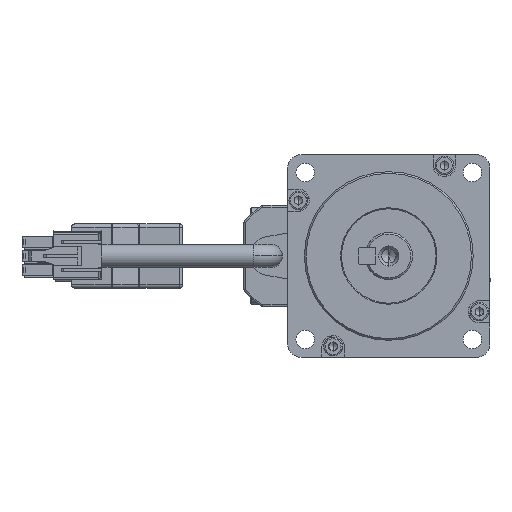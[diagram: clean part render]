
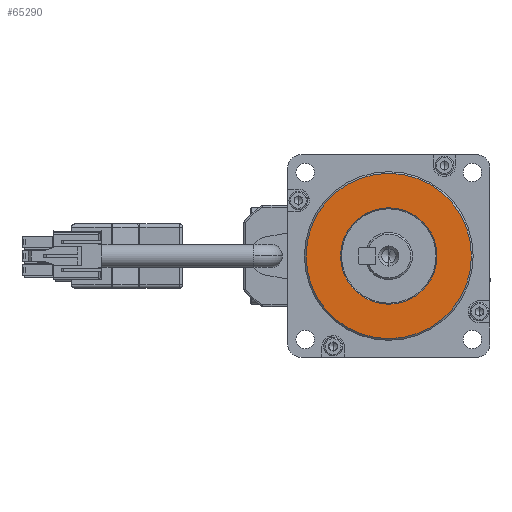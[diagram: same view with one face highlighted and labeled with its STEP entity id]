
A CAD part, left-side view. The second image highlights one B-rep face of the part: STEP entity #65290.
In plain terms, the highlighted planar face has unit normal (-1, 0, 0).
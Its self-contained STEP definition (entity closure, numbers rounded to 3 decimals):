
#4902 = DIRECTION ( 'NONE',  ( 0., 0., -1. ) ) ;
#7477 = CARTESIAN_POINT ( 'NONE',  ( -5.4, 0., 0. ) ) ;
#11857 = CARTESIAN_POINT ( 'NONE',  ( -5.4, 0., 0. ) ) ;
#15047 = DIRECTION ( 'NONE',  ( 1., 0., 0. ) ) ;
#17389 = EDGE_CURVE ( 'NONE', #90632, #43119, #60688, .T. ) ;
#20774 = ORIENTED_EDGE ( 'NONE', *, *, #17389, .T. ) ;
#22634 = DIRECTION ( 'NONE',  ( -1., 0., 0. ) ) ;
#23148 = AXIS2_PLACEMENT_3D ( 'NONE', #11857, #86842, #4902 ) ;
#24910 = EDGE_CURVE ( 'NONE', #91470, #52499, #79510, .T. ) ;
#27014 = CARTESIAN_POINT ( 'NONE',  ( -5.4, 0., 0. ) ) ;
#32018 = CARTESIAN_POINT ( 'NONE',  ( -5.4, 0., 24.5 ) ) ;
#32862 = AXIS2_PLACEMENT_3D ( 'NONE', #57722, #95657, #58044 ) ;
#32904 = AXIS2_PLACEMENT_3D ( 'NONE', #7477, #15047, #67498 ) ;
#35148 = CARTESIAN_POINT ( 'NONE',  ( -5.4, 0., -14.289 ) ) ;
#41985 = DIRECTION ( 'NONE',  ( -1., 0., 0. ) ) ;
#43119 = VERTEX_POINT ( 'NONE', #32018 ) ;
#43825 = CIRCLE ( 'NONE', #86481, 24.5 ) ;
#45494 = CARTESIAN_POINT ( 'NONE',  ( -5.4, 0., 14.289 ) ) ;
#46577 = AXIS2_PLACEMENT_3D ( 'NONE', #27014, #41985, #64584 ) ;
#50963 = FACE_OUTER_BOUND ( 'NONE', #78061, .T. ) ;
#52026 = CIRCLE ( 'NONE', #32904, 14.289 ) ;
#52499 = VERTEX_POINT ( 'NONE', #45494 ) ;
#57150 = ORIENTED_EDGE ( 'NONE', *, *, #63301, .T. ) ;
#57722 = CARTESIAN_POINT ( 'NONE',  ( -5.4, 0., 0. ) ) ;
#58044 = DIRECTION ( 'NONE',  ( 0., 0., -1. ) ) ;
#60688 = CIRCLE ( 'NONE', #46577, 24.5 ) ;
#63158 = EDGE_CURVE ( 'NONE', #43119, #90632, #43825, .T. ) ;
#63301 = EDGE_CURVE ( 'NONE', #52499, #91470, #52026, .T. ) ;
#63426 = ORIENTED_EDGE ( 'NONE', *, *, #24910, .T. ) ;
#64584 = DIRECTION ( 'NONE',  ( 0., 0., -1. ) ) ;
#65123 = CARTESIAN_POINT ( 'NONE',  ( -5.4, 0., -24.5 ) ) ;
#65290 = ADVANCED_FACE ( 'NONE', ( #70982, #50963 ), #71942, .F. ) ;
#67498 = DIRECTION ( 'NONE',  ( 0., 0., -1. ) ) ;
#69394 = ORIENTED_EDGE ( 'NONE', *, *, #63158, .T. ) ;
#70982 = FACE_BOUND ( 'NONE', #78135, .T. ) ;
#71942 = PLANE ( 'NONE',  #23148 ) ;
#74451 = CARTESIAN_POINT ( 'NONE',  ( -5.4, 0., 0. ) ) ;
#78061 = EDGE_LOOP ( 'NONE', ( #20774, #69394 ) ) ;
#78135 = EDGE_LOOP ( 'NONE', ( #57150, #63426 ) ) ;
#79510 = CIRCLE ( 'NONE', #32862, 14.289 ) ;
#86481 = AXIS2_PLACEMENT_3D ( 'NONE', #74451, #22634, #90327 ) ;
#86842 = DIRECTION ( 'NONE',  ( 1., 0., 0. ) ) ;
#90327 = DIRECTION ( 'NONE',  ( 0., 0., -1. ) ) ;
#90632 = VERTEX_POINT ( 'NONE', #65123 ) ;
#91470 = VERTEX_POINT ( 'NONE', #35148 ) ;
#95657 = DIRECTION ( 'NONE',  ( 1., 0., 0. ) ) ;
